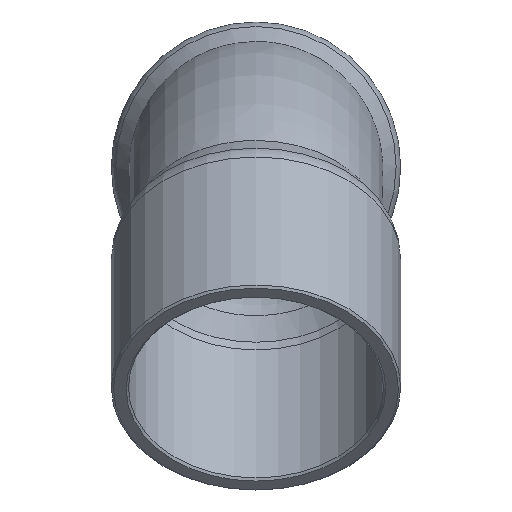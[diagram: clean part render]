
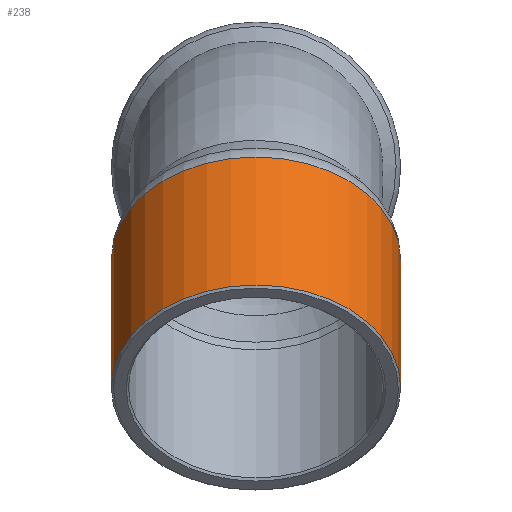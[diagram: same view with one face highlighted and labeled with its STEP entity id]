
A CAD part, top view. The second image highlights one B-rep face of the part: STEP entity #238.
In plain terms, the highlighted free-form (B-spline) face has degree [1, 2] with [2, 9] control points.
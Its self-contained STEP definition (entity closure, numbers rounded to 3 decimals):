
#175=CARTESIAN_POINT('',(0.,27.498,28.205));
#176=VERTEX_POINT('',#175);
#177=CARTESIAN_POINT('',(0.0,18.526,19.233));
#178=DIRECTION('',(0.,0.707,-0.707));
#179=DIRECTION('',(0.,-0.707,-0.707));
#180=AXIS2_PLACEMENT_3D('',#177,#178,#179);
#181=CIRCLE('',#180,12.688);
#182=EDGE_CURVE('',#176,#176,#181,.T.);
#198=CARTESIAN_POINT('',(0.,18.526,1.29));
#199=CARTESIAN_POINT('',(0.,-10.66,30.476));
#200=CARTESIAN_POINT('',(-12.688,18.526,1.29));
#201=CARTESIAN_POINT('',(-12.688,-10.66,30.476));
#202=CARTESIAN_POINT('',(-12.688,27.498,10.262));
#203=CARTESIAN_POINT('',(-12.688,-1.688,39.448));
#204=CARTESIAN_POINT('',(-12.687,36.469,19.233));
#205=CARTESIAN_POINT('',(-12.687,7.283,48.419));
#206=CARTESIAN_POINT('',(0.,36.469,19.233));
#207=CARTESIAN_POINT('',(0.,7.283,48.419));
#208=CARTESIAN_POINT('',(12.688,36.469,19.233));
#209=CARTESIAN_POINT('',(12.688,7.283,48.419));
#210=CARTESIAN_POINT('',(12.688,27.498,10.262));
#211=CARTESIAN_POINT('',(12.688,-1.688,39.448));
#212=CARTESIAN_POINT('',(12.687,18.526,1.29));
#213=CARTESIAN_POINT('',(12.687,-10.66,30.476));
#214=CARTESIAN_POINT('',(0.,18.526,1.29));
#215=CARTESIAN_POINT('',(0.,-10.66,30.476));
#223=(BOUNDED_SURFACE()B_SPLINE_SURFACE(1,2,((#198,#200,#202,#204,#206,#208,#210,#212,#214),(#199,#201,#203,#205,#207,#209,#211,#213,#215)),.UNSPECIFIED.,.F.,.T.,.U.)B_SPLINE_SURFACE_WITH_KNOTS((2,2),(3,2,2,2,3),(-1.603,1.65),(0.0,19.929,39.859,59.788,79.718),.UNSPECIFIED.)GEOMETRIC_REPRESENTATION_ITEM()RATIONAL_B_SPLINE_SURFACE(((1.0,0.707,1.0,0.707,1.0,0.707,1.0,0.707,1.0),(1.0,0.707,1.0,0.707,1.0,0.707,1.0,0.707,1.0)))REPRESENTATION_ITEM('')SURFACE());
#224=CARTESIAN_POINT('',(0.,16.255,39.448));
#225=VERTEX_POINT('',#224);
#226=CARTESIAN_POINT('',(0.0,7.283,30.476));
#227=DIRECTION('',(0.0,-0.707,0.707));
#228=DIRECTION('',(0.0,-0.707,-0.707));
#229=AXIS2_PLACEMENT_3D('',#226,#227,#228);
#230=CIRCLE('',#229,12.688);
#231=EDGE_CURVE('',#225,#225,#230,.T.);
#232=ORIENTED_EDGE('',*,*,#231,.F.);
#233=EDGE_LOOP('',(#232));
#234=FACE_OUTER_BOUND('',#233,.T.);
#235=ORIENTED_EDGE('',*,*,#182,.F.);
#236=EDGE_LOOP('',(#235));
#237=FACE_BOUND('',#236,.T.);
#238=ADVANCED_FACE('',(#234,#237),#223,.T.);
